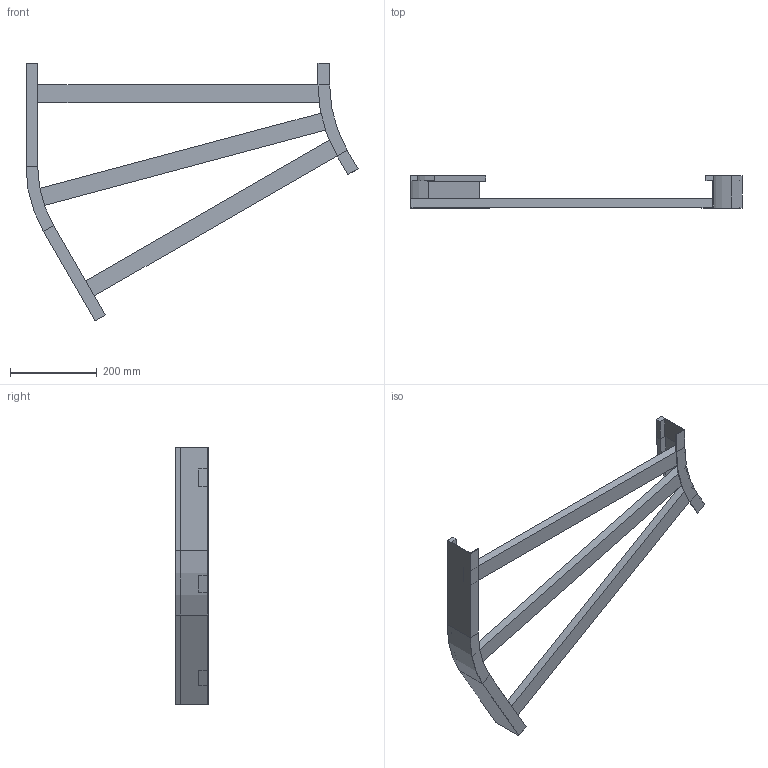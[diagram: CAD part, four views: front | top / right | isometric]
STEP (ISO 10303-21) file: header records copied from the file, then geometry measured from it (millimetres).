
FILE_DESCRIPTION (( 'STEP AP214' ), '1' );
FILE_NAME ('B2_12B3C700.step', '2025-02-21T15:11:26', ( '' ), ( '' ), 'SwSTEP 2.0', 'SolidWorks 2023', '' );
FILE_SCHEMA (( 'AUTOMOTIVE_DESIGN' ));
Length unit declared in the file: millimetre
Products named in the file (5): B2_LONGH.INTERNO 30°_H75_R300; B2_LONGH.ESTERNO 30°_H75_R300+700; TRAVERSINO_700; TRAVERSINO_L719; B2_12B3C700
Assembly tree (5 placements, depth 2):
  B2_12B3C700
    B2_LONGH.INTERNO 30°_H75_R300
    B2_LONGH.ESTERNO 30°_H75_R300+700
    TRAVERSINO_700  x2
    TRAVERSINO_L719
Bounding box: 765.19 x 75 x 593.3 mm (x, y, z)
Volume: 2058510.9 mm3; surface area: 471731 mm2
Topology: 5 solids, 5 shells, 70 faces, 148 edges, 88 vertices
Faces by surface type: plane 62, cylinder 8
Entity records: 1822 total; most frequent: DIRECTION 296, CARTESIAN_POINT 288, ORIENTED_EDGE 272, EDGE_CURVE 136, VECTOR 120, LINE 120, AXIS2_PLACEMENT_3D 88, VERTEX_POINT 80
